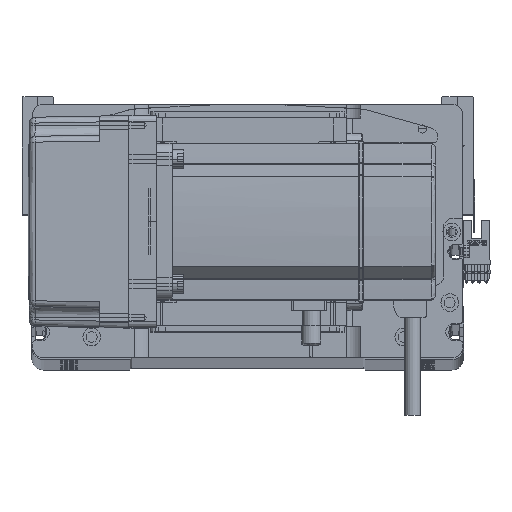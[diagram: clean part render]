
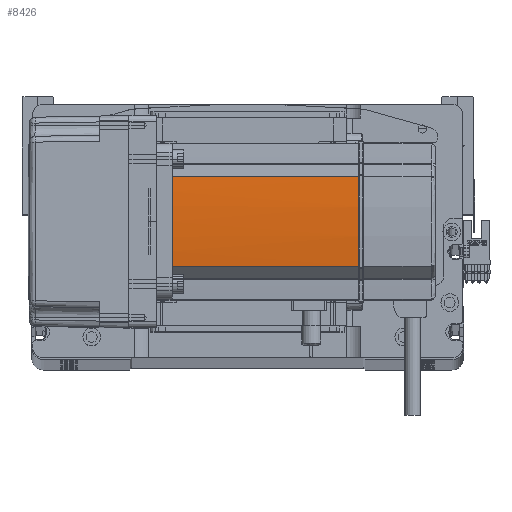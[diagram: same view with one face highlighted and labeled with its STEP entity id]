
A CAD part, top view. The second image highlights one B-rep face of the part: STEP entity #8426.
In plain terms, the highlighted cylindrical face has radius 270 mm (diameter 540 mm), a partial arc.
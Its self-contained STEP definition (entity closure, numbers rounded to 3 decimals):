
#108 = CARTESIAN_POINT ( 'NONE',  ( 40., 0.127, 134. ) ) ;
#163 = VECTOR ( 'NONE', #32050, 1000. ) ;
#414 = ORIENTED_EDGE ( 'NONE', *, *, #14729, .T. ) ;
#840 = CARTESIAN_POINT ( 'NONE',  ( 39.042, -22.724, 39. ) ) ;
#1740 = CARTESIAN_POINT ( 'NONE',  ( -230., 0., 134. ) ) ;
#2435 = CARTESIAN_POINT ( 'NONE',  ( 39.042, 22.724, 134. ) ) ;
#3369 = EDGE_CURVE ( 'NONE', #18925, #6674, #21397, .T. ) ;
#4432 = CARTESIAN_POINT ( 'NONE',  ( 40., -0.127, 134. ) ) ;
#6353 = CARTESIAN_POINT ( 'NONE',  ( -230., 0., 39. ) ) ;
#6674 = VERTEX_POINT ( 'NONE', #7856 ) ;
#7331 = CARTESIAN_POINT ( 'NONE',  ( -230., 0., 134. ) ) ;
#7786 = EDGE_CURVE ( 'NONE', #57869, #27114, #15567, .T. ) ;
#7856 = CARTESIAN_POINT ( 'NONE',  ( 39.042, -22.724, 134. ) ) ;
#8417 = AXIS2_PLACEMENT_3D ( 'NONE', #30369, #44868, #49050 ) ;
#8426 = ADVANCED_FACE ( 'NONE', ( #35504 ), #15515, .T. ) ;
#9777 = CIRCLE ( 'NONE', #22414, 270. ) ;
#10016 = ORIENTED_EDGE ( 'NONE', *, *, #55652, .F. ) ;
#13688 = CARTESIAN_POINT ( 'NONE',  ( 39.042, -22.724, 58. ) ) ;
#14729 = EDGE_CURVE ( 'NONE', #57869, #35182, #39811, .T. ) ;
#15156 = ORIENTED_EDGE ( 'NONE', *, *, #36242, .T. ) ;
#15282 = ORIENTED_EDGE ( 'NONE', *, *, #24724, .T. ) ;
#15515 = CYLINDRICAL_SURFACE ( 'NONE', #8417, 270. ) ;
#15567 = CIRCLE ( 'NONE', #55542, 270. ) ;
#15689 = LINE ( 'NONE', #13688, #163 ) ;
#17669 = CARTESIAN_POINT ( 'NONE',  ( 40., 0.127, 134. ) ) ;
#18405 = VECTOR ( 'NONE', #24427, 1000. ) ;
#18641 = B_SPLINE_CURVE_WITH_KNOTS ( 'NONE', 3,
 ( #4432, #50130, #45376, #17669 ),
 .UNSPECIFIED., .F., .F.,
 ( 4, 4 ),
 ( 0., 1. ),
 .UNSPECIFIED. ) ;
#18925 = VERTEX_POINT ( 'NONE', #49689 ) ;
#19163 = DIRECTION ( 'NONE',  ( 0., 0., -1. ) ) ;
#21397 = CIRCLE ( 'NONE', #36032, 270. ) ;
#22414 = AXIS2_PLACEMENT_3D ( 'NONE', #7331, #47898, #34774 ) ;
#24427 = DIRECTION ( 'NONE',  ( 0., 0., 1. ) ) ;
#24724 = EDGE_CURVE ( 'NONE', #35182, #35802, #9777, .T. ) ;
#27114 = VERTEX_POINT ( 'NONE', #840 ) ;
#30369 = CARTESIAN_POINT ( 'NONE',  ( -230., 0., 58. ) ) ;
#32050 = DIRECTION ( 'NONE',  ( 0., 0., -1. ) ) ;
#33147 = EDGE_LOOP ( 'NONE', ( #15156, #45122, #414, #15282, #10016, #55524 ) ) ;
#33516 = DIRECTION ( 'NONE',  ( -1., 0., 0. ) ) ;
#34774 = DIRECTION ( 'NONE',  ( -1., 0., 0. ) ) ;
#35182 = VERTEX_POINT ( 'NONE', #2435 ) ;
#35504 = FACE_OUTER_BOUND ( 'NONE', #33147, .T. ) ;
#35802 = VERTEX_POINT ( 'NONE', #108 ) ;
#36032 = AXIS2_PLACEMENT_3D ( 'NONE', #1740, #19163, #33516 ) ;
#36242 = EDGE_CURVE ( 'NONE', #6674, #27114, #15689, .T. ) ;
#38355 = CARTESIAN_POINT ( 'NONE',  ( 39.042, 22.724, 58. ) ) ;
#39811 = LINE ( 'NONE', #38355, #18405 ) ;
#42758 = DIRECTION ( 'NONE',  ( -1., 0., 0. ) ) ;
#44390 = CARTESIAN_POINT ( 'NONE',  ( 39.042, 22.724, 39. ) ) ;
#44868 = DIRECTION ( 'NONE',  ( 0., 0., -1. ) ) ;
#45122 = ORIENTED_EDGE ( 'NONE', *, *, #7786, .F. ) ;
#45376 = CARTESIAN_POINT ( 'NONE',  ( 40., 0.042, 134. ) ) ;
#47352 = DIRECTION ( 'NONE',  ( 0., 0., -1. ) ) ;
#47898 = DIRECTION ( 'NONE',  ( 0., 0., -1. ) ) ;
#49050 = DIRECTION ( 'NONE',  ( -1., 0., 0. ) ) ;
#49689 = CARTESIAN_POINT ( 'NONE',  ( 40., -0.127, 134. ) ) ;
#50130 = CARTESIAN_POINT ( 'NONE',  ( 40., -0.042, 134. ) ) ;
#55524 = ORIENTED_EDGE ( 'NONE', *, *, #3369, .T. ) ;
#55542 = AXIS2_PLACEMENT_3D ( 'NONE', #6353, #47352, #42758 ) ;
#55652 = EDGE_CURVE ( 'NONE', #18925, #35802, #18641, .T. ) ;
#57869 = VERTEX_POINT ( 'NONE', #44390 ) ;
